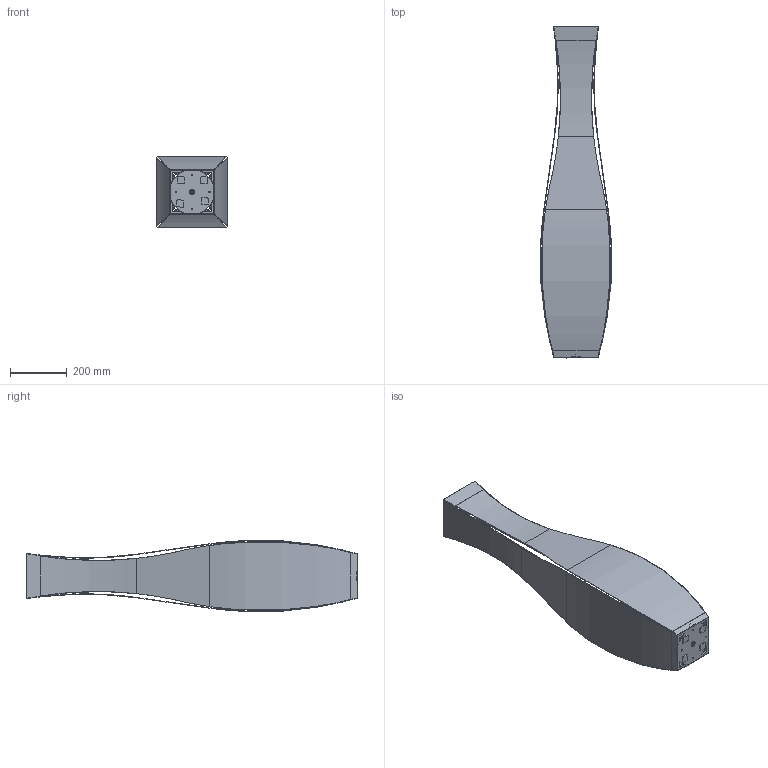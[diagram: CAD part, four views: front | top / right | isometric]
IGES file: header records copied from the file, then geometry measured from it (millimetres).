
Start section: SolidWorks IGES file using analytic representation for surfaces
Global section: file name: \\utenti\Dati Utenti\Tecnico\DC\2D - 3D per sito\3D\DeCastelli-3D-Lolita 118.igs; native system: SolidWorks 2022; preprocessor: SolidWorks 2022; author: Simonep; date: 240729.120302; units: millimetre
Bounding box: 252.15 x 1174.14 x 252.16 mm (x, y, z)
Surface area: 1734541.8 mm2 (no closed solid volume)
Topology: 0 solids, 0 shells, 150 faces, 1390 edges, 1390 vertices
Faces by surface type: bspline 85, revolution 65
